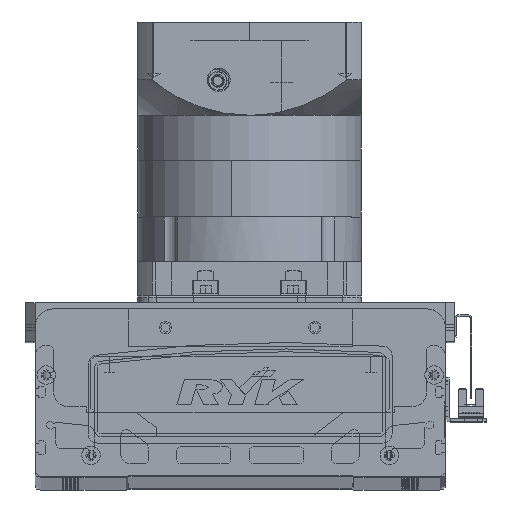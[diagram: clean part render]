
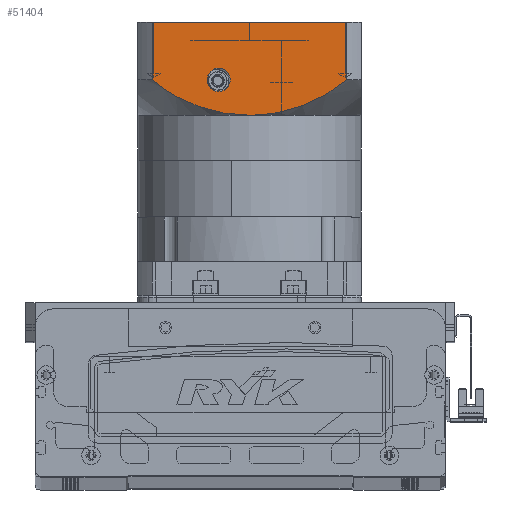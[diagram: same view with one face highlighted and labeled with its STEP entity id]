
A CAD part, top view. The second image highlights one B-rep face of the part: STEP entity #51404.
In plain terms, the highlighted planar face has unit normal (0, 0, 1) as drawn and (0, -1, 0) by its records, which use the part's own axes.
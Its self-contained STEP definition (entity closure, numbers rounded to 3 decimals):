
#962 = CARTESIAN_POINT ( 'NONE',  ( 48.457, -60., -116.522 ) ) ;
#2037 = EDGE_CURVE ( 'NONE', #16310, #41466, #39989, .T. ) ;
#4219 = CARTESIAN_POINT ( 'NONE',  ( -29.939, -60., -106.183 ) ) ;
#4468 = CARTESIAN_POINT ( 'NONE',  ( -18.792, -60., -102.562 ) ) ;
#4742 = CARTESIAN_POINT ( 'NONE',  ( -48.52, -60., -116.438 ) ) ;
#5096 = VERTEX_POINT ( 'NONE', #72286 ) ;
#5146 = ORIENTED_EDGE ( 'NONE', *, *, #60733, .T. ) ;
#6304 = ORIENTED_EDGE ( 'NONE', *, *, #24310, .T. ) ;
#9072 = DIRECTION ( 'NONE',  ( 0., 1., 0. ) ) ;
#11814 = PLANE ( 'NONE',  #54624 ) ;
#12300 = ORIENTED_EDGE ( 'NONE', *, *, #60666, .T. ) ;
#12796 = CARTESIAN_POINT ( 'NONE',  ( 16.426, -60., -102.169 ) ) ;
#12875 = VERTEX_POINT ( 'NONE', #43040 ) ;
#13325 = CARTESIAN_POINT ( 'NONE',  ( 23.329, -60., -103.886 ) ) ;
#13593 = CARTESIAN_POINT ( 'NONE',  ( 45.542, -60., -114.478 ) ) ;
#16019 = AXIS2_PLACEMENT_3D ( 'NONE', #46779, #59185, #39790 ) ;
#16298 = CARTESIAN_POINT ( 'NONE',  ( -39.546, -60., -110.776 ) ) ;
#16310 = VERTEX_POINT ( 'NONE', #68696 ) ;
#16562 = CARTESIAN_POINT ( 'NONE',  ( -38.51, -60., -110.207 ) ) ;
#17805 = VERTEX_POINT ( 'NONE', #75419 ) ;
#20053 = CARTESIAN_POINT ( 'NONE',  ( 19.894, -60., -102.964 ) ) ;
#20645 = CARTESIAN_POINT ( 'NONE',  ( -60., -60., -150.5 ) ) ;
#20796 = CARTESIAN_POINT ( 'NONE',  ( 52.156, -60., -119.5 ) ) ;
#22633 = DIRECTION ( 'NONE',  ( 0., 0., 1. ) ) ;
#22776 = CARTESIAN_POINT ( 'NONE',  ( -35.342, -60., -108.587 ) ) ;
#23303 = CARTESIAN_POINT ( 'NONE',  ( -44.656, -60., -113.73 ) ) ;
#23691 = DIRECTION ( 'NONE',  ( 1., 0., 0. ) ) ;
#23852 = LINE ( 'NONE', #52724, #67250 ) ;
#24310 = EDGE_CURVE ( 'NONE', #5096, #17805, #61248, .T. ) ;
#25553 = VECTOR ( 'NONE', #70792, 1000. ) ;
#26005 = CARTESIAN_POINT ( 'NONE',  ( 44.553, -60., -113.817 ) ) ;
#26565 = LINE ( 'NONE', #20645, #25553 ) ;
#28736 = CARTESIAN_POINT ( 'NONE',  ( -23.319, -60., -103.777 ) ) ;
#28999 = CARTESIAN_POINT ( 'NONE',  ( 0., -60., -100.5 ) ) ;
#30042 = CARTESIAN_POINT ( 'NONE',  ( -52.156, -60., -119.5 ) ) ;
#30201 = DIRECTION ( 'NONE',  ( 0., -1., 0. ) ) ;
#31984 = EDGE_LOOP ( 'NONE', ( #57794, #5146, #53105, #42614, #51140 ) ) ;
#34167 = DIRECTION ( 'NONE',  ( 0., 0., -1. ) ) ;
#34951 = CARTESIAN_POINT ( 'NONE',  ( -4.747, -60., -100.604 ) ) ;
#35507 = CARTESIAN_POINT ( 'NONE',  ( -36.409, -60., -109.113 ) ) ;
#36765 = CARTESIAN_POINT ( 'NONE',  ( -52.156, -60., -150.5 ) ) ;
#37642 = CARTESIAN_POINT ( 'NONE',  ( 32.196, -60., -107.007 ) ) ;
#37919 = CARTESIAN_POINT ( 'NONE',  ( 25.577, -60., -104.596 ) ) ;
#38338 = B_SPLINE_CURVE_WITH_KNOTS ( 'NONE', 3,
 ( #66186, #4742, #23303, #16298, #16562, #35507, #22776, #40860, #4219, #28736, #4468, #78047, #59468, #71846, #66448, #34951, #72113, #28999 ),
 .UNSPECIFIED., .F., .F.,
 ( 4, 2, 2, 2, 2, 2, 2, 2, 4 ),
 ( 0., 0.014, 0.018, 0.021, 0.028, 0.042, 0.046, 0.05, 0.057 ),
 .UNSPECIFIED. ) ;
#38711 = CARTESIAN_POINT ( 'NONE',  ( 41.545, -60., -111.931 ) ) ;
#39790 = DIRECTION ( 'NONE',  ( 0., 0., -1. ) ) ;
#39989 = B_SPLINE_CURVE_WITH_KNOTS ( 'NONE', 3,
 ( #75323, #50519, #44603, #62969, #12796, #44083, #20053, #13325, #37919, #37642, #49725, #38711, #55924, #26005, #13593, #962, #56475, #75584 ),
 .UNSPECIFIED., .F., .F.,
 ( 4, 2, 2, 2, 2, 2, 2, 2, 4 ),
 ( 0., 0.014, 0.018, 0.021, 0.028, 0.042, 0.046, 0.05, 0.057 ),
 .UNSPECIFIED. ) ;
#40860 = CARTESIAN_POINT ( 'NONE',  ( -32.118, -60., -107.084 ) ) ;
#41125 = EDGE_CURVE ( 'NONE', #58833, #16310, #38338, .T. ) ;
#41466 = VERTEX_POINT ( 'NONE', #20796 ) ;
#41856 = FACE_BOUND ( 'NONE', #66489, .T. ) ;
#42557 = CARTESIAN_POINT ( 'NONE',  ( -60., -60., -150.5 ) ) ;
#42614 = ORIENTED_EDGE ( 'NONE', *, *, #2037, .F. ) ;
#43040 = CARTESIAN_POINT ( 'NONE',  ( 52.156, -60., -150.5 ) ) ;
#43973 = CIRCLE ( 'NONE', #54443, 6.25 ) ;
#44083 = CARTESIAN_POINT ( 'NONE',  ( 18.739, -60., -102.681 ) ) ;
#44603 = CARTESIAN_POINT ( 'NONE',  ( 9.454, -60., -100.914 ) ) ;
#46779 = CARTESIAN_POINT ( 'NONE',  ( 16.5, -60., -119.5 ) ) ;
#46938 = VECTOR ( 'NONE', #22633, 1000. ) ;
#47640 = FACE_OUTER_BOUND ( 'NONE', #31984, .T. ) ;
#49725 = CARTESIAN_POINT ( 'NONE',  ( 36.444, -60., -108.986 ) ) ;
#50519 = CARTESIAN_POINT ( 'NONE',  ( 4.753, -60., -100.5 ) ) ;
#51140 = ORIENTED_EDGE ( 'NONE', *, *, #41125, .F. ) ;
#51404 = ADVANCED_FACE ( 'NONE', ( #47640, #41856 ), #11814, .T. ) ;
#52182 = CARTESIAN_POINT ( 'NONE',  ( 16.5, -60., -119.5 ) ) ;
#52724 = CARTESIAN_POINT ( 'NONE',  ( -52.156, -60., -97.5 ) ) ;
#53105 = ORIENTED_EDGE ( 'NONE', *, *, #55842, .T. ) ;
#54443 = AXIS2_PLACEMENT_3D ( 'NONE', #52182, #9072, #34167 ) ;
#54624 = AXIS2_PLACEMENT_3D ( 'NONE', #42557, #30201, #23691 ) ;
#55505 = VERTEX_POINT ( 'NONE', #36765 ) ;
#55842 = EDGE_CURVE ( 'NONE', #12875, #41466, #77801, .T. ) ;
#55924 = CARTESIAN_POINT ( 'NONE',  ( 42.555, -60., -112.543 ) ) ;
#56475 = CARTESIAN_POINT ( 'NONE',  ( 50.338, -60., -117.969 ) ) ;
#57794 = ORIENTED_EDGE ( 'NONE', *, *, #66027, .F. ) ;
#58833 = VERTEX_POINT ( 'NONE', #30042 ) ;
#59185 = DIRECTION ( 'NONE',  ( 0., 1., 0. ) ) ;
#59468 = CARTESIAN_POINT ( 'NONE',  ( -11.825, -60., -101.356 ) ) ;
#60666 = EDGE_CURVE ( 'NONE', #17805, #5096, #43973, .T. ) ;
#60733 = EDGE_CURVE ( 'NONE', #55505, #12875, #26565, .T. ) ;
#61248 = CIRCLE ( 'NONE', #16019, 6.25 ) ;
#62969 = CARTESIAN_POINT ( 'NONE',  ( 15.267, -60., -101.938 ) ) ;
#66027 = EDGE_CURVE ( 'NONE', #55505, #58833, #23852, .T. ) ;
#66186 = CARTESIAN_POINT ( 'NONE',  ( -52.156, -60., -119.5 ) ) ;
#66448 = CARTESIAN_POINT ( 'NONE',  ( -8.294, -60., -100.916 ) ) ;
#66489 = EDGE_LOOP ( 'NONE', ( #12300, #6304 ) ) ;
#67250 = VECTOR ( 'NONE', #70060, 1000. ) ;
#68696 = CARTESIAN_POINT ( 'NONE',  ( 0., -60., -100.5 ) ) ;
#70060 = DIRECTION ( 'NONE',  ( 0., 0., 1. ) ) ;
#70792 = DIRECTION ( 'NONE',  ( 1., 0., 0. ) ) ;
#71846 = CARTESIAN_POINT ( 'NONE',  ( -9.477, -60., -101.046 ) ) ;
#72113 = CARTESIAN_POINT ( 'NONE',  ( -2.376, -60., -100.5 ) ) ;
#72286 = CARTESIAN_POINT ( 'NONE',  ( 16.5, -60., -113.25 ) ) ;
#75323 = CARTESIAN_POINT ( 'NONE',  ( 0., -60., -100.5 ) ) ;
#75419 = CARTESIAN_POINT ( 'NONE',  ( 16.5, -60., -125.75 ) ) ;
#75584 = CARTESIAN_POINT ( 'NONE',  ( 52.156, -60., -119.5 ) ) ;
#77801 = LINE ( 'NONE', #77893, #46938 ) ;
#77893 = CARTESIAN_POINT ( 'NONE',  ( 52.156, -60., -150.5 ) ) ;
#78047 = CARTESIAN_POINT ( 'NONE',  ( -12.993, -60., -101.537 ) ) ;
